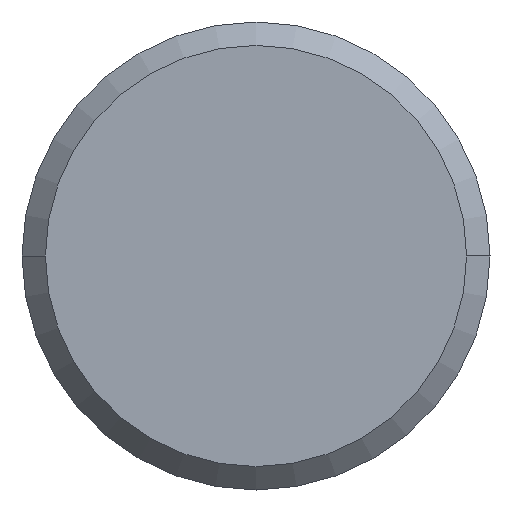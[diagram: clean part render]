
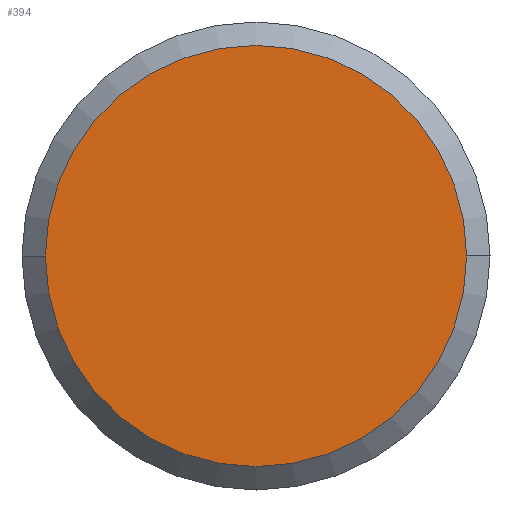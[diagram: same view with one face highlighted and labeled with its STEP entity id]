
A CAD part, left-side view. The second image highlights one B-rep face of the part: STEP entity #394.
In plain terms, the highlighted planar face has unit normal (-1, 0, 0).
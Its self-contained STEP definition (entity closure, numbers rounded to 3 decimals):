
#5 = CIRCLE ( 'NONE', #368, 4.5 ) ;
#6 = FACE_OUTER_BOUND ( 'NONE', #269, .T. ) ;
#13 = AXIS2_PLACEMENT_3D ( 'NONE', #463, #277, #408 ) ;
#47 = ORIENTED_EDGE ( 'NONE', *, *, #208, .F. ) ;
#84 = CARTESIAN_POINT ( 'NONE',  ( -44., 0., 0. ) ) ;
#86 = CARTESIAN_POINT ( 'NONE',  ( -44., 4.5, 0. ) ) ;
#140 = ORIENTED_EDGE ( 'NONE', *, *, #164, .F. ) ;
#145 = DIRECTION ( 'NONE',  ( 0., -1., 0. ) ) ;
#149 = VERTEX_POINT ( 'NONE', #249 ) ;
#164 = EDGE_CURVE ( 'NONE', #203, #149, #5, .T. ) ;
#203 = VERTEX_POINT ( 'NONE', #86 ) ;
#208 = EDGE_CURVE ( 'NONE', #149, #203, #243, .T. ) ;
#209 = DIRECTION ( 'NONE',  ( 1., 0., 0. ) ) ;
#237 = AXIS2_PLACEMENT_3D ( 'NONE', #84, #363, #145 ) ;
#243 = CIRCLE ( 'NONE', #13, 4.5 ) ;
#249 = CARTESIAN_POINT ( 'NONE',  ( -44., -4.5, 0. ) ) ;
#269 = EDGE_LOOP ( 'NONE', ( #140, #47 ) ) ;
#277 = DIRECTION ( 'NONE',  ( 1., 0., 0. ) ) ;
#313 = PLANE ( 'NONE',  #237 ) ;
#363 = DIRECTION ( 'NONE',  ( -1., 0., 0. ) ) ;
#368 = AXIS2_PLACEMENT_3D ( 'NONE', #369, #209, #398 ) ;
#369 = CARTESIAN_POINT ( 'NONE',  ( -44., 0., 0. ) ) ;
#394 = ADVANCED_FACE ( 'NONE', ( #6 ), #313, .T. ) ;
#398 = DIRECTION ( 'NONE',  ( 0., 1., 0. ) ) ;
#408 = DIRECTION ( 'NONE',  ( 0., 1., 0. ) ) ;
#463 = CARTESIAN_POINT ( 'NONE',  ( -44., 0., 0. ) ) ;
